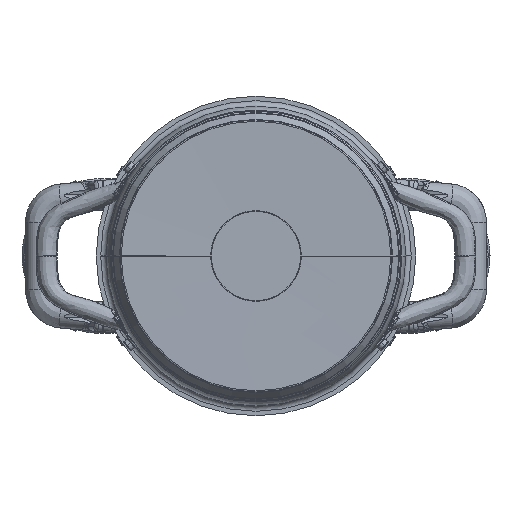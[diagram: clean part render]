
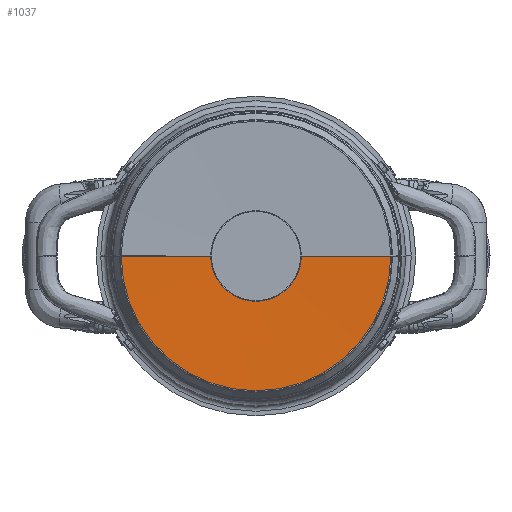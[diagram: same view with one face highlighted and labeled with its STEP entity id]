
A CAD part, front view. The second image highlights one B-rep face of the part: STEP entity #1037.
In plain terms, the highlighted conical face has half-angle 89 degrees and reference radius 60.577 mm.
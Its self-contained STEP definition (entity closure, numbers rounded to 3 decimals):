
#734=CARTESIAN_POINT('',(0.,0.,0.));
#735=DIRECTION('',(0.,-1.,0.));
#736=DIRECTION('',(-1.,0.,0.));
#737=AXIS2_PLACEMENT_3D('',#734,#735,#736);
#739=DIRECTION('',(1.,0.017,0.));
#740=VECTOR('',#739,60.163);
#741=CARTESIAN_POINT('',(-90.653,0.,
0.));
#742=LINE('',#741,#740);
#743=CARTESIAN_POINT('',(0.,1.05,0.));
#744=DIRECTION('',(0.,-1.,0.));
#745=DIRECTION('',(-1.,0.,0.));
#746=AXIS2_PLACEMENT_3D('',#743,#744,#745);
#748=DIRECTION('',(-1.,0.017,0.));
#749=VECTOR('',#748,60.163);
#750=CARTESIAN_POINT('',(90.653,0.,
0.));
#751=LINE('',#750,#749);
#803=CARTESIAN_POINT('',(90.653,0.,
0.));
#804=VERTEX_POINT('',#803);
#805=CARTESIAN_POINT('',(-90.653,0.,
0.));
#806=VERTEX_POINT('',#805);
#807=CARTESIAN_POINT('',(30.5,1.05,0.));
#808=VERTEX_POINT('',#807);
#809=CARTESIAN_POINT('',(-30.5,1.05,0.));
#810=VERTEX_POINT('',#809);
#1023=CARTESIAN_POINT('',(0.,0.525,0.));
#1024=DIRECTION('',(0.,-1.,0.));
#1025=DIRECTION('',(-1.,0.,0.));
#1026=AXIS2_PLACEMENT_3D('',#1023,#1024,#1025);
#1027=CONICAL_SURFACE('',#1026,60.577,89.);
#1029=ORIENTED_EDGE('',*,*,#1028,.F.);
#1030=ORIENTED_EDGE('',*,*,#1018,.F.);
#1032=ORIENTED_EDGE('',*,*,#1031,.T.);
#1034=ORIENTED_EDGE('',*,*,#1033,.T.);
#1035=EDGE_LOOP('',(#1029,#1030,#1032,#1034));
#1036=FACE_OUTER_BOUND('',#1035,.F.);
#1037=ADVANCED_FACE('',(#1036),#1027,.F.);
#738=CIRCLE('',#737,90.653);
#747=CIRCLE('',#746,30.5);
#1018=EDGE_CURVE('',#806,#804,#738,.T.);
#1028=EDGE_CURVE('',#804,#808,#751,.T.);
#1031=EDGE_CURVE('',#806,#810,#742,.T.);
#1033=EDGE_CURVE('',#810,#808,#747,.T.);
